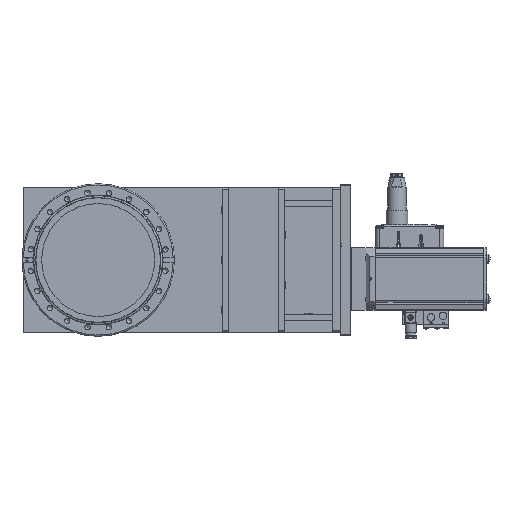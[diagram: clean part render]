
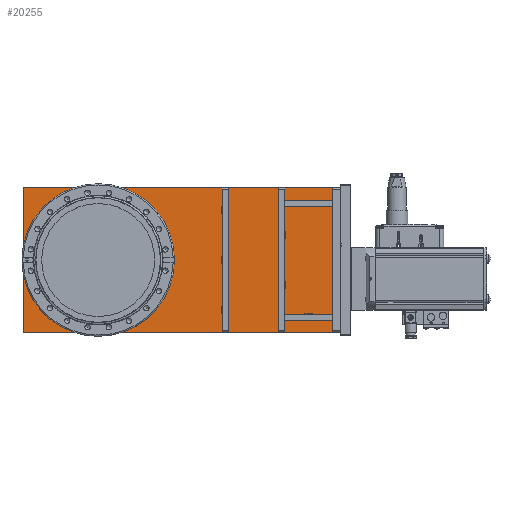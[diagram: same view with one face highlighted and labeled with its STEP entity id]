
A CAD part, top view. The second image highlights one B-rep face of the part: STEP entity #20255.
In plain terms, the highlighted planar face has unit normal (0, 0, 1).
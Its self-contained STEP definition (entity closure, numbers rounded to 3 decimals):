
#8035=LINE('',#72944,#11625);
#8037=LINE('',#72948,#11627);
#8039=LINE('',#72952,#11629);
#8041=LINE('',#72956,#11631);
#11625=VECTOR('',#57934,1.);
#11627=VECTOR('',#57938,1.);
#11629=VECTOR('',#57942,1.);
#11631=VECTOR('',#57946,1.);
#16124=PLANE('',#49589);
#20255=ADVANCED_FACE('',(#22133,#22134),#16124,.F.);
#22133=FACE_BOUND('',#24786,.T.);
#22134=FACE_BOUND('',#24787,.T.);
#24786=EDGE_LOOP('',(#32829));
#24787=EDGE_LOOP('',(#32830,#32831,#32832,#32833));
#32829=ORIENTED_EDGE('',*,*,#44136,.T.);
#32830=ORIENTED_EDGE('',*,*,#44129,.F.);
#32831=ORIENTED_EDGE('',*,*,#44127,.T.);
#32832=ORIENTED_EDGE('',*,*,#44133,.F.);
#32833=ORIENTED_EDGE('',*,*,#44131,.F.);
#39227=VERTEX_POINT('',#72943);
#39228=VERTEX_POINT('',#72945);
#39229=VERTEX_POINT('',#72949);
#39230=VERTEX_POINT('',#72953);
#39233=VERTEX_POINT('',#72964);
#44127=EDGE_CURVE('',#39228,#39227,#8035,.T.);
#44129=EDGE_CURVE('',#39228,#39229,#8037,.T.);
#44131=EDGE_CURVE('',#39229,#39230,#8039,.T.);
#44133=EDGE_CURVE('',#39230,#39227,#8041,.T.);
#44136=EDGE_CURVE('',#39233,#39233,#46788,.T.);
#46788=CIRCLE('',#49588,75.3);
#49588=AXIS2_PLACEMENT_3D('',#72963,#57955,#57956);
#49589=AXIS2_PLACEMENT_3D('',#72965,#57957,#57958);
#57934=DIRECTION('',(0.,1.,0.));
#57938=DIRECTION('',(-1.,0.,0.));
#57942=DIRECTION('',(0.,1.,0.));
#57946=DIRECTION('',(1.,0.,0.));
#57955=DIRECTION('',(0.,0.,-1.));
#57956=DIRECTION('',(0.,1.,0.));
#57957=DIRECTION('',(0.,0.,-1.));
#57958=DIRECTION('',(0.,1.,0.));
#72943=CARTESIAN_POINT('',(322.3,96.225,27.));
#72944=CARTESIAN_POINT('',(322.3,0.,27.));
#72945=CARTESIAN_POINT('',(322.3,-96.225,27.));
#72948=CARTESIAN_POINT('',(323.6,-96.225,27.));
#72949=CARTESIAN_POINT('',(-98.55,-96.225,27.));
#72952=CARTESIAN_POINT('',(-98.55,-96.225,27.));
#72953=CARTESIAN_POINT('',(-98.55,96.225,27.));
#72956=CARTESIAN_POINT('',(-98.55,96.225,27.));
#72963=CARTESIAN_POINT('',(0.,0.,27.));
#72964=CARTESIAN_POINT('',(0.,75.3,27.));
#72965=CARTESIAN_POINT('',(0.,0.,27.));
